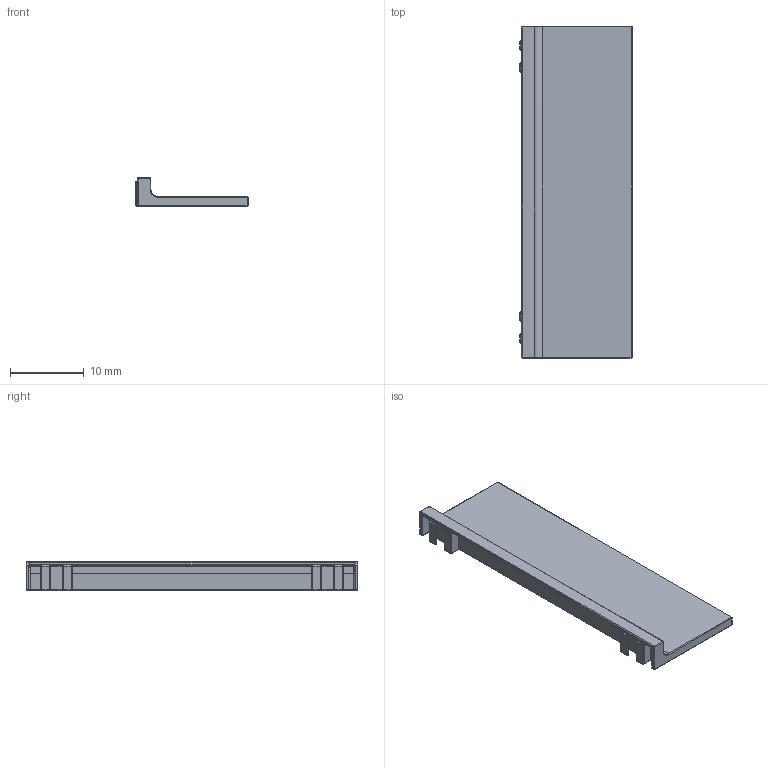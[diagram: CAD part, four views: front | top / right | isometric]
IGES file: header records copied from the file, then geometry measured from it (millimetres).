
Global section: file name: D:\3ddFactory\3D_Kartell\Ex-novo_3dd\9920\Shelfish_3d_Ludovica + Roberto Palomba_Kartell.igs; native system: Rhinoceros ( Mar 10 2014 ); preprocessor: Trout Lake IGES 012 Mar 10 2014; date: 180214.145855; units: millimetre
Bounding box: 15.2 x 45 x 3.9 mm (x, y, z)
Surface area: 2155.4 mm2 (no closed solid volume)
Topology: 0 solids, 0 shells, 266 faces, 1113 edges, 1113 vertices
Faces by surface type: bspline 266
